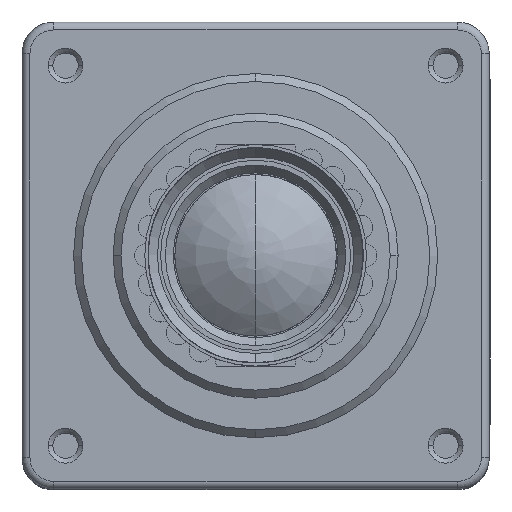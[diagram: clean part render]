
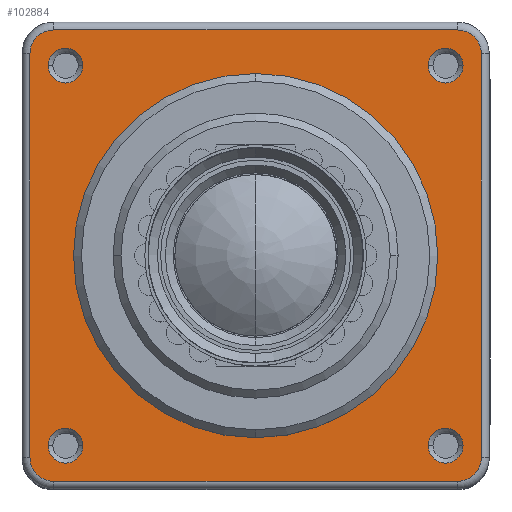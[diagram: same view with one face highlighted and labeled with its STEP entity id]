
A CAD part, top view. The second image highlights one B-rep face of the part: STEP entity #102884.
In plain terms, the highlighted planar face has unit normal (0, 0, 1).
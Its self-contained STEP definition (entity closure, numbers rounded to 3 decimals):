
#98511=DIRECTION('',(0.,-1.,0.));
#98512=VECTOR('',#98511,25.5);
#98513=CARTESIAN_POINT('',(-14.25,12.75,2.3));
#98514=LINE('',#98513,#98512);
#98525=CARTESIAN_POINT('',(12.75,12.75,2.3));
#98526=DIRECTION('',(0.,0.,-1.));
#98527=DIRECTION('',(0.,1.,0.));
#98528=AXIS2_PLACEMENT_3D('',#98525,#98526,#98527);
#98533=CARTESIAN_POINT('',(12.75,-12.75,2.3));
#98534=DIRECTION('',(0.,0.,-1.));
#98535=DIRECTION('',(1.,0.,0.));
#98536=AXIS2_PLACEMENT_3D('',#98533,#98534,#98535);
#98541=CARTESIAN_POINT('',(-12.75,-12.75,2.3));
#98542=DIRECTION('',(0.,0.,-1.));
#98543=DIRECTION('',(0.,-1.,0.));
#98544=AXIS2_PLACEMENT_3D('',#98541,#98542,#98543);
#98549=CARTESIAN_POINT('',(-12.75,12.75,2.3));
#98550=DIRECTION('',(0.,0.,-1.));
#98551=DIRECTION('',(-1.,0.,0.));
#98552=AXIS2_PLACEMENT_3D('',#98549,#98550,#98551);
#98557=CARTESIAN_POINT('',(-12.,12.,2.3));
#98558=DIRECTION('',(0.,0.,1.));
#98559=DIRECTION('',(1.,0.,0.));
#98560=AXIS2_PLACEMENT_3D('',#98557,#98558,#98559);
#98565=CARTESIAN_POINT('',(-12.,12.,2.3));
#98566=DIRECTION('',(0.,0.,1.));
#98567=DIRECTION('',(0.,1.,0.));
#98568=AXIS2_PLACEMENT_3D('',#98565,#98566,#98567);
#98573=CARTESIAN_POINT('',(-12.,12.,2.3));
#98574=DIRECTION('',(0.,0.,1.));
#98575=DIRECTION('',(-1.,0.,0.));
#98576=AXIS2_PLACEMENT_3D('',#98573,#98574,#98575);
#98581=CARTESIAN_POINT('',(-12.,12.,2.3));
#98582=DIRECTION('',(0.,0.,1.));
#98583=DIRECTION('',(0.,-1.,0.));
#98584=AXIS2_PLACEMENT_3D('',#98581,#98582,#98583);
#98589=CARTESIAN_POINT('',(12.,12.,2.3));
#98590=DIRECTION('',(0.,0.,1.));
#98591=DIRECTION('',(1.,0.,0.));
#98592=AXIS2_PLACEMENT_3D('',#98589,#98590,#98591);
#98597=CARTESIAN_POINT('',(12.,12.,2.3));
#98598=DIRECTION('',(0.,0.,1.));
#98599=DIRECTION('',(0.,1.,0.));
#98600=AXIS2_PLACEMENT_3D('',#98597,#98598,#98599);
#98605=CARTESIAN_POINT('',(12.,12.,2.3));
#98606=DIRECTION('',(0.,0.,1.));
#98607=DIRECTION('',(-1.,0.,0.));
#98608=AXIS2_PLACEMENT_3D('',#98605,#98606,#98607);
#98613=CARTESIAN_POINT('',(12.,12.,2.3));
#98614=DIRECTION('',(0.,0.,1.));
#98615=DIRECTION('',(0.,-1.,0.));
#98616=AXIS2_PLACEMENT_3D('',#98613,#98614,#98615);
#98621=CARTESIAN_POINT('',(12.,-12.,2.3));
#98622=DIRECTION('',(0.,0.,1.));
#98623=DIRECTION('',(1.,0.,0.));
#98624=AXIS2_PLACEMENT_3D('',#98621,#98622,#98623);
#98629=CARTESIAN_POINT('',(12.,-12.,2.3));
#98630=DIRECTION('',(0.,0.,1.));
#98631=DIRECTION('',(0.,1.,0.));
#98632=AXIS2_PLACEMENT_3D('',#98629,#98630,#98631);
#98637=CARTESIAN_POINT('',(12.,-12.,2.3));
#98638=DIRECTION('',(0.,0.,1.));
#98639=DIRECTION('',(-1.,0.,0.));
#98640=AXIS2_PLACEMENT_3D('',#98637,#98638,#98639);
#98645=CARTESIAN_POINT('',(12.,-12.,2.3));
#98646=DIRECTION('',(0.,0.,1.));
#98647=DIRECTION('',(0.,-1.,0.));
#98648=AXIS2_PLACEMENT_3D('',#98645,#98646,#98647);
#98653=CARTESIAN_POINT('',(-12.,-12.,2.3));
#98654=DIRECTION('',(0.,0.,1.));
#98655=DIRECTION('',(-1.,0.,0.));
#98656=AXIS2_PLACEMENT_3D('',#98653,#98654,#98655);
#98661=CARTESIAN_POINT('',(-12.,-12.,2.3));
#98662=DIRECTION('',(0.,0.,1.));
#98663=DIRECTION('',(0.,-1.,0.));
#98664=AXIS2_PLACEMENT_3D('',#98661,#98662,#98663);
#98669=CARTESIAN_POINT('',(-12.,-12.,2.3));
#98670=DIRECTION('',(0.,0.,1.));
#98671=DIRECTION('',(1.,0.,0.));
#98672=AXIS2_PLACEMENT_3D('',#98669,#98670,#98671);
#98677=CARTESIAN_POINT('',(-12.,-12.,2.3));
#98678=DIRECTION('',(0.,0.,1.));
#98679=DIRECTION('',(0.,1.,0.));
#98680=AXIS2_PLACEMENT_3D('',#98677,#98678,#98679);
#98685=CARTESIAN_POINT('',(0.,0.,2.3));
#98686=DIRECTION('',(0.,0.,1.));
#98687=DIRECTION('',(0.,1.,0.));
#98688=AXIS2_PLACEMENT_3D('',#98685,#98686,#98687);
#98693=CARTESIAN_POINT('',(0.,0.,2.3));
#98694=DIRECTION('',(0.,0.,1.));
#98695=DIRECTION('',(0.,-1.,0.));
#98696=AXIS2_PLACEMENT_3D('',#98693,#98694,#98695);
#98725=DIRECTION('',(-1.,0.,0.));
#98726=VECTOR('',#98725,25.5);
#98727=CARTESIAN_POINT('',(12.75,14.25,2.3));
#98728=LINE('',#98727,#98726);
#98907=DIRECTION('',(1.,0.,0.));
#98908=VECTOR('',#98907,25.5);
#98909=CARTESIAN_POINT('',(-12.75,-14.25,2.3));
#98910=LINE('',#98909,#98908);
#98945=DIRECTION('',(0.,1.,0.));
#98946=VECTOR('',#98945,25.5);
#98947=CARTESIAN_POINT('',(14.25,-12.75,2.3));
#98948=LINE('',#98947,#98946);
#102127=CARTESIAN_POINT('',(-14.25,12.75,2.3));
#102128=CARTESIAN_POINT('',(-14.25,-12.75,2.3));
#102129=VERTEX_POINT('',#102127);
#102130=VERTEX_POINT('',#102128);
#102131=CARTESIAN_POINT('',(12.75,14.25,2.3));
#102132=CARTESIAN_POINT('',(14.25,12.75,2.3));
#102133=VERTEX_POINT('',#102131);
#102134=VERTEX_POINT('',#102132);
#102135=CARTESIAN_POINT('',(14.25,-12.75,2.3));
#102136=VERTEX_POINT('',#102135);
#102137=CARTESIAN_POINT('',(12.75,-14.25,2.3));
#102138=VERTEX_POINT('',#102137);
#102139=CARTESIAN_POINT('',(-12.75,-14.25,2.3));
#102140=VERTEX_POINT('',#102139);
#102141=CARTESIAN_POINT('',(-12.75,14.25,2.3));
#102142=VERTEX_POINT('',#102141);
#102143=CARTESIAN_POINT('',(-12.,13.1,2.3));
#102144=CARTESIAN_POINT('',(-13.1,12.,2.3));
#102145=VERTEX_POINT('',#102143);
#102146=VERTEX_POINT('',#102144);
#102147=CARTESIAN_POINT('',(-10.9,12.,2.3));
#102148=VERTEX_POINT('',#102147);
#102149=CARTESIAN_POINT('',(-12.,10.9,2.3));
#102150=VERTEX_POINT('',#102149);
#102151=CARTESIAN_POINT('',(12.,13.1,2.3));
#102152=CARTESIAN_POINT('',(10.9,12.,2.3));
#102153=VERTEX_POINT('',#102151);
#102154=VERTEX_POINT('',#102152);
#102155=CARTESIAN_POINT('',(13.1,12.,2.3));
#102156=VERTEX_POINT('',#102155);
#102157=CARTESIAN_POINT('',(12.,10.9,2.3));
#102158=VERTEX_POINT('',#102157);
#102159=CARTESIAN_POINT('',(12.,-10.9,2.3));
#102160=CARTESIAN_POINT('',(10.9,-12.,2.3));
#102161=VERTEX_POINT('',#102159);
#102162=VERTEX_POINT('',#102160);
#102163=CARTESIAN_POINT('',(13.1,-12.,2.3));
#102164=VERTEX_POINT('',#102163);
#102165=CARTESIAN_POINT('',(12.,-13.1,2.3));
#102166=VERTEX_POINT('',#102165);
#102167=CARTESIAN_POINT('',(-12.,-13.1,2.3));
#102168=CARTESIAN_POINT('',(-10.9,-12.,2.3));
#102169=VERTEX_POINT('',#102167);
#102170=VERTEX_POINT('',#102168);
#102171=CARTESIAN_POINT('',(-13.1,-12.,2.3));
#102172=VERTEX_POINT('',#102171);
#102173=CARTESIAN_POINT('',(-12.,-10.9,2.3));
#102174=VERTEX_POINT('',#102173);
#102175=CARTESIAN_POINT('',(0.,11.5,2.3));
#102176=CARTESIAN_POINT('',(0.,-11.5,2.3));
#102177=VERTEX_POINT('',#102175);
#102178=VERTEX_POINT('',#102176);
#102816=CARTESIAN_POINT('',(0.,0.,2.3));
#102817=DIRECTION('',(0.,0.,1.));
#102818=DIRECTION('',(1.,0.,0.));
#102819=AXIS2_PLACEMENT_3D('',#102816,#102817,#102818);
#102820=PLANE('',#102819);
#102822=ORIENTED_EDGE('',*,*,#102821,.T.);
#102824=ORIENTED_EDGE('',*,*,#102823,.F.);
#102826=ORIENTED_EDGE('',*,*,#102825,.T.);
#102828=ORIENTED_EDGE('',*,*,#102827,.F.);
#102830=ORIENTED_EDGE('',*,*,#102829,.T.);
#102831=ORIENTED_EDGE('',*,*,#102806,.F.);
#102833=ORIENTED_EDGE('',*,*,#102832,.T.);
#102835=ORIENTED_EDGE('',*,*,#102834,.F.);
#102836=EDGE_LOOP('',(#102822,#102824,#102826,#102828,#102830,#102831,#102833,
#102835));
#102837=FACE_OUTER_BOUND('',#102836,.F.);
#102839=ORIENTED_EDGE('',*,*,#102838,.T.);
#102841=ORIENTED_EDGE('',*,*,#102840,.T.);
#102843=ORIENTED_EDGE('',*,*,#102842,.T.);
#102845=ORIENTED_EDGE('',*,*,#102844,.T.);
#102846=EDGE_LOOP('',(#102839,#102841,#102843,#102845));
#102847=FACE_BOUND('',#102846,.F.);
#102849=ORIENTED_EDGE('',*,*,#102848,.T.);
#102851=ORIENTED_EDGE('',*,*,#102850,.T.);
#102853=ORIENTED_EDGE('',*,*,#102852,.T.);
#102855=ORIENTED_EDGE('',*,*,#102854,.T.);
#102856=EDGE_LOOP('',(#102849,#102851,#102853,#102855));
#102857=FACE_BOUND('',#102856,.F.);
#102859=ORIENTED_EDGE('',*,*,#102858,.T.);
#102861=ORIENTED_EDGE('',*,*,#102860,.T.);
#102863=ORIENTED_EDGE('',*,*,#102862,.T.);
#102865=ORIENTED_EDGE('',*,*,#102864,.T.);
#102866=EDGE_LOOP('',(#102859,#102861,#102863,#102865));
#102867=FACE_BOUND('',#102866,.F.);
#102869=ORIENTED_EDGE('',*,*,#102868,.T.);
#102871=ORIENTED_EDGE('',*,*,#102870,.T.);
#102873=ORIENTED_EDGE('',*,*,#102872,.T.);
#102875=ORIENTED_EDGE('',*,*,#102874,.T.);
#102876=EDGE_LOOP('',(#102869,#102871,#102873,#102875));
#102877=FACE_BOUND('',#102876,.F.);
#102879=ORIENTED_EDGE('',*,*,#102878,.T.);
#102881=ORIENTED_EDGE('',*,*,#102880,.T.);
#102882=EDGE_LOOP('',(#102879,#102881));
#102883=FACE_BOUND('',#102882,.F.);
#98529=CIRCLE('',#98528,1.5);
#98537=CIRCLE('',#98536,1.5);
#98545=CIRCLE('',#98544,1.5);
#98553=CIRCLE('',#98552,1.5);
#98561=CIRCLE('',#98560,1.1);
#98569=CIRCLE('',#98568,1.1);
#98577=CIRCLE('',#98576,1.1);
#98585=CIRCLE('',#98584,1.1);
#98593=CIRCLE('',#98592,1.1);
#98601=CIRCLE('',#98600,1.1);
#98609=CIRCLE('',#98608,1.1);
#98617=CIRCLE('',#98616,1.1);
#98625=CIRCLE('',#98624,1.1);
#98633=CIRCLE('',#98632,1.1);
#98641=CIRCLE('',#98640,1.1);
#98649=CIRCLE('',#98648,1.1);
#98657=CIRCLE('',#98656,1.1);
#98665=CIRCLE('',#98664,1.1);
#98673=CIRCLE('',#98672,1.1);
#98681=CIRCLE('',#98680,1.1);
#98689=CIRCLE('',#98688,11.5);
#98697=CIRCLE('',#98696,11.5);
#102806=EDGE_CURVE('',#102129,#102130,#98514,.T.);
#102821=EDGE_CURVE('',#102133,#102134,#98529,.T.);
#102823=EDGE_CURVE('',#102136,#102134,#98948,.T.);
#102825=EDGE_CURVE('',#102136,#102138,#98537,.T.);
#102827=EDGE_CURVE('',#102140,#102138,#98910,.T.);
#102829=EDGE_CURVE('',#102140,#102130,#98545,.T.);
#102832=EDGE_CURVE('',#102129,#102142,#98553,.T.);
#102834=EDGE_CURVE('',#102133,#102142,#98728,.T.);
#102838=EDGE_CURVE('',#102148,#102145,#98561,.T.);
#102840=EDGE_CURVE('',#102145,#102146,#98569,.T.);
#102842=EDGE_CURVE('',#102146,#102150,#98577,.T.);
#102844=EDGE_CURVE('',#102150,#102148,#98585,.T.);
#102848=EDGE_CURVE('',#102156,#102153,#98593,.T.);
#102850=EDGE_CURVE('',#102153,#102154,#98601,.T.);
#102852=EDGE_CURVE('',#102154,#102158,#98609,.T.);
#102854=EDGE_CURVE('',#102158,#102156,#98617,.T.);
#102858=EDGE_CURVE('',#102164,#102161,#98625,.T.);
#102860=EDGE_CURVE('',#102161,#102162,#98633,.T.);
#102862=EDGE_CURVE('',#102162,#102166,#98641,.T.);
#102864=EDGE_CURVE('',#102166,#102164,#98649,.T.);
#102868=EDGE_CURVE('',#102172,#102169,#98657,.T.);
#102870=EDGE_CURVE('',#102169,#102170,#98665,.T.);
#102872=EDGE_CURVE('',#102170,#102174,#98673,.T.);
#102874=EDGE_CURVE('',#102174,#102172,#98681,.T.);
#102878=EDGE_CURVE('',#102177,#102178,#98689,.T.);
#102880=EDGE_CURVE('',#102178,#102177,#98697,.T.);
#102884=ADVANCED_FACE('',(#102837,#102847,#102857,#102867,#102877,#102883),
#102820,.T.);
